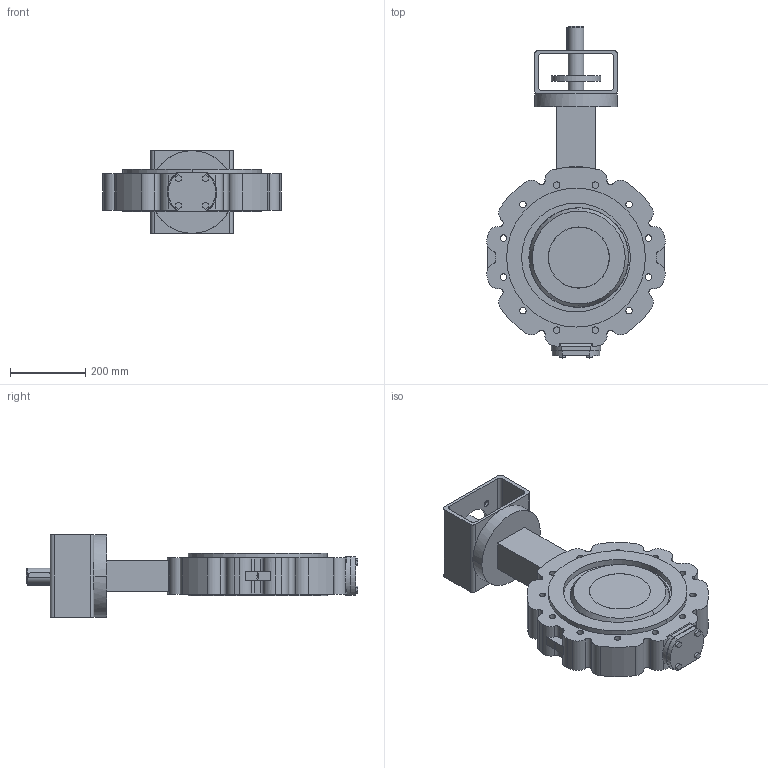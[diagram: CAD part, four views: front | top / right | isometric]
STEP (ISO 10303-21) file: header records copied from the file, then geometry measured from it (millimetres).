
FILE_DESCRIPTION( ( '' ), '1' );
FILE_NAME( 'F:/DE-SHS/TB/OR/04-Sonstiges/daten/files_3d/018_ZETRIX-PN10_freiesWellende/c000006351.stp', '2016-09-01T11:03:49', ( '' ), ( '' ), ' ', ' ', ' ' );
FILE_SCHEMA( ( 'CONFIG_CONTROL_DESIGN' ) );
Length unit declared in the file: millimetre
Products named in the file (1): 1
Bounding box: 475.69 x 884.4 x 220 mm (x, y, z)
Volume: 18794750.8 mm3; surface area: 1165322.4 mm2
Topology: 1 solids, 1 shells, 284 faces, 752 edges, 500 vertices
Faces by surface type: cylinder 161, plane 115, sphere 4, cone 4
Entity records: 9756 total; most frequent: CARTESIAN_POINT 2277, DIRECTION 1650, ORIENTED_EDGE 1504, EDGE_CURVE 752, AXIS2_PLACEMENT_3D 641, VERTEX_POINT 500, LINE 368, VECTOR 368
